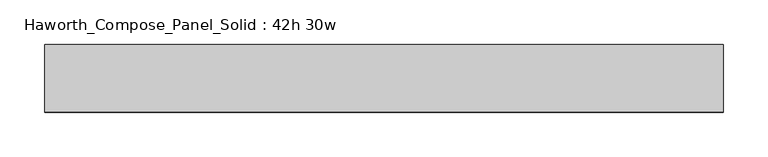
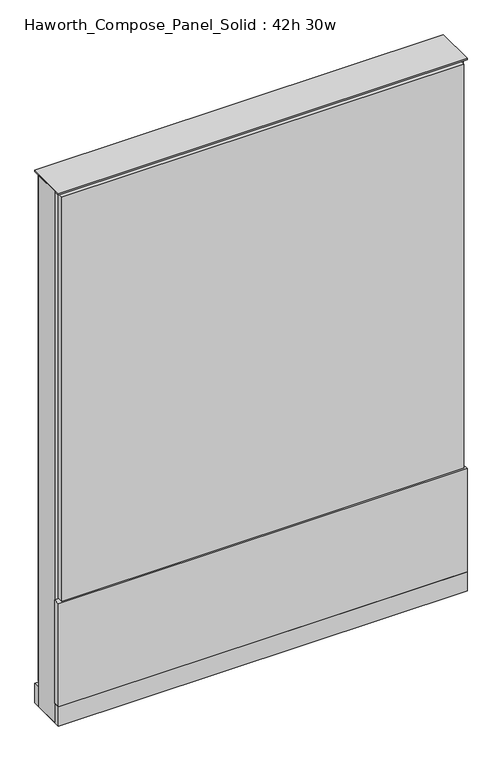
"""IFC4 building model written with IfcOpenShell, lengths in millimetres: furniture geometry, Haworth_Compose_Panel_Solid : 42h 30w."""

from ifc_helpers import new_model, si_unit, point, frame, frame_2d, origin, origin_with_axes, place, context, project, spatial, polyline, circle_curve, trimmed, segment, composite_curve, outline, extrude, source, transform, mapped, element, save


def haworth_compose_panel_solid_42h_30w_ff8150bf(model_context):
    return source(origin(), model_context, "Body", "SweptSolid", [
        extrude(outline(composite_curve([segment(trimmed(circle_curve(frame_2d((-302.3597098, 0.0)), 12.7), [point((-315.0597098, 0.0))], [point((-289.6597098, 0.0))], False, "CARTESIAN"), True, "CONTINUOUS"), segment(trimmed(circle_curve(frame_2d((-302.3597098, 0.0)), 12.7), [point((-289.6597098, 0.0))], [point((-315.0597098, 0.0))], False, "CARTESIAN"), True, "CONTINUOUS")], self_intersect=False)), origin_with_axes(), (0.0, 0.0, 1.0), 12.7),
        extrude(outline(composite_curve([segment(trimmed(circle_curve(frame_2d((307.2402902, 0.0)), 12.7), [point((294.5402902, 0.0))], [point((319.9402902, 0.0))], False, "CARTESIAN"), True, "CONTINUOUS"), segment(trimmed(circle_curve(frame_2d((307.2402902, 0.0)), 12.7), [point((319.9402902, 0.0))], [point((294.5402902, 0.0))], False, "CARTESIAN"), True, "CONTINUOUS")], self_intersect=False)), origin_with_axes(), (0.0, 0.0, 1.0), 12.7),
        extrude(outline(polyline([(377.0902902, 38.1), (377.0902902, 25.4), (-372.2097098, 25.4), (-372.2097098, 38.1), (377.0902902, 38.1)])), frame((0.0, 0.0, 53.975), z_axis=(0.0, 0.0, 1.0), x_axis=(1.0, 0.0, 0.0)), (0.0, 0.0, 1.0), 1000.125),
        extrude(outline(polyline([(383.4402902, -38.1), (-378.5597098, -38.1), (-378.5597098, -25.4), (383.4402902, -25.4), (383.4402902, -38.1)])), frame((0.0, 0.0, 50.8), z_axis=(0.0, 0.0, 1.0), x_axis=(1.0, 0.0, 0.0)), (0.0, 0.0, 1.0), 203.2),
        extrude(outline(polyline([(377.0902902, -38.1), (-372.2097098, -38.1), (-372.2097098, -25.4), (377.0902902, -25.4), (377.0902902, -38.1)])), frame((0.0, 0.0, 257.175), z_axis=(0.0, 0.0, 1.0), x_axis=(1.0, 0.0, 0.0)), (0.0, 0.0, 1.0), 796.925),
        extrude(outline(polyline([(383.4402902, 25.4), (383.4402902, -25.4), (-378.5597098, -25.4), (-378.5597098, 25.4), (383.4402902, 25.4)])), frame((0.0, 0.0, 12.7), z_axis=(0.0, 0.0, 1.0), x_axis=(1.0, 0.0, 0.0)), (0.0, 0.0, 1.0), 1047.75),
        extrude(outline(polyline([(-378.5597098, -38.1), (-378.5597098, 38.1), (383.4402902, 38.1), (383.4402902, -38.1), (-378.5597098, -38.1)])), frame((0.0, 0.0, 12.7), z_axis=(0.0, 0.0, 1.0), x_axis=(1.0, 0.0, 0.0)), (0.0, 0.0, 1.0), 38.1),
        extrude(outline(polyline([(-378.5597098, -38.1), (-378.5597098, 38.1), (383.4402902, 38.1), (383.4402902, -38.1), (-378.5597098, -38.1)])), frame((0.0, 0.0, 1060.45), z_axis=(0.0, 0.0, 1.0), x_axis=(1.0, 0.0, 0.0)), (0.0, 0.0, 1.0), 3.175),
    ])


if __name__ == "__main__":
    model = new_model("IFC4")
    model_context = context("Model", 3, world=origin())
    ifc_project = project(units=[si_unit("LENGTHUNIT", "METRE", prefix="MILLI")], contexts=[model_context])
    site = spatial("IfcSite", under=ifc_project)
    building = spatial("IfcBuilding", under=site)
    placement = place(None, origin())
    haworth_compose_panel_solid_42h_30w_shape = haworth_compose_panel_solid_42h_30w_ff8150bf(model_context)
    element("IfcFurniture", 1, ObjectType="Haworth_Compose_Panel_Solid : 42h 30w", at=placement, inside=building, context=model_context, shape_type="MappedRepresentation", body=[
        mapped(haworth_compose_panel_solid_42h_30w_shape, transform((0.0, 0.0, 0.0), x_axis=(1.0, 0.0, 0.0), y_axis=(0.0, 1.0, 0.0), z_axis=(0.0, 0.0, 1.0))),
    ])
    save(model, "model.ifc")
